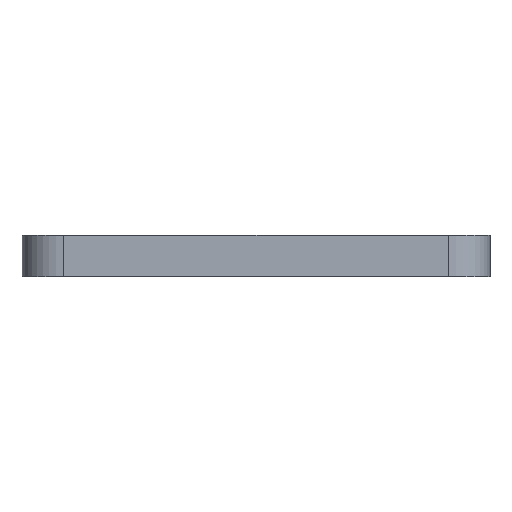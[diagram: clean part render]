
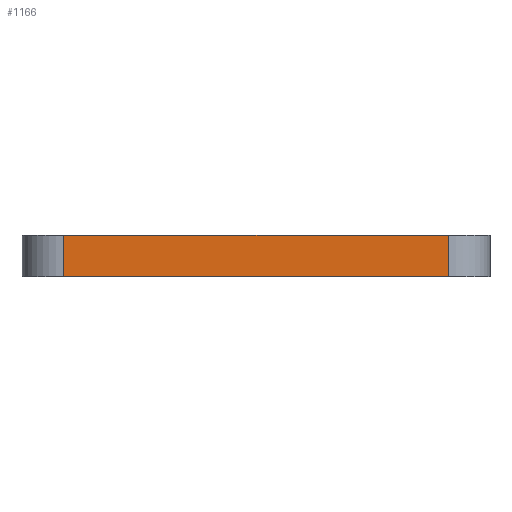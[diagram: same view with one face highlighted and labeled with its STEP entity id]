
A CAD part, front view. The second image highlights one B-rep face of the part: STEP entity #1166.
In plain terms, the highlighted planar face has unit normal (0, -1, 0).
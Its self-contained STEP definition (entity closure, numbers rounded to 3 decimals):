
#44 = PLANE('',#45);
#45 = AXIS2_PLACEMENT_3D('',#46,#47,#48);
#46 = CARTESIAN_POINT('',(-55.,-50.,8.));
#47 = DIRECTION('',(0.,0.,1.));
#48 = DIRECTION('',(1.,0.,0.));
#72 = CYLINDRICAL_SURFACE('',#73,8.);
#73 = AXIS2_PLACEMENT_3D('',#74,#75,#76);
#74 = CARTESIAN_POINT('',(-47.,-42.,0.));
#75 = DIRECTION('',(0.,0.,1.));
#76 = DIRECTION('',(-1.,-0.,0.));
#100 = PLANE('',#101);
#101 = AXIS2_PLACEMENT_3D('',#102,#103,#104);
#102 = CARTESIAN_POINT('',(-55.,-50.,0.));
#103 = DIRECTION('',(0.,0.,1.));
#104 = DIRECTION('',(1.,0.,0.));
#143 = VERTEX_POINT('',#144);
#144 = CARTESIAN_POINT('',(-47.,-50.,8.));
#166 = EDGE_CURVE('',#143,#167,#169,.T.);
#167 = VERTEX_POINT('',#168);
#168 = CARTESIAN_POINT('',(27.,-50.,8.));
#169 = SURFACE_CURVE('',#170,(#174,#181),.PCURVE_S1.);
#170 = LINE('',#171,#172);
#171 = CARTESIAN_POINT('',(-55.,-50.,8.));
#172 = VECTOR('',#173,1.);
#173 = DIRECTION('',(1.,0.,0.));
#174 = PCURVE('',#44,#175);
#175 = DEFINITIONAL_REPRESENTATION('',(#176),#180);
#176 = LINE('',#177,#178);
#177 = CARTESIAN_POINT('',(0.,0.));
#178 = VECTOR('',#179,1.);
#179 = DIRECTION('',(1.,0.));
#180 = ( GEOMETRIC_REPRESENTATION_CONTEXT(2) 
PARAMETRIC_REPRESENTATION_CONTEXT() REPRESENTATION_CONTEXT('2D SPACE',''
  ) );
#181 = PCURVE('',#182,#187);
#182 = PLANE('',#183);
#183 = AXIS2_PLACEMENT_3D('',#184,#185,#186);
#184 = CARTESIAN_POINT('',(-55.,-50.,0.));
#185 = DIRECTION('',(0.,1.,0.));
#186 = DIRECTION('',(0.,0.,1.));
#187 = DEFINITIONAL_REPRESENTATION('',(#188),#192);
#188 = LINE('',#189,#190);
#189 = CARTESIAN_POINT('',(8.,0.));
#190 = VECTOR('',#191,1.);
#191 = DIRECTION('',(0.,1.));
#192 = ( GEOMETRIC_REPRESENTATION_CONTEXT(2) 
PARAMETRIC_REPRESENTATION_CONTEXT() REPRESENTATION_CONTEXT('2D SPACE',''
  ) );
#215 = CYLINDRICAL_SURFACE('',#216,8.);
#216 = AXIS2_PLACEMENT_3D('',#217,#218,#219);
#217 = CARTESIAN_POINT('',(27.,-42.,0.));
#218 = DIRECTION('',(0.,0.,1.));
#219 = DIRECTION('',(1.,0.,-0.));
#652 = VERTEX_POINT('',#653);
#653 = CARTESIAN_POINT('',(-47.,-50.,0.));
#675 = EDGE_CURVE('',#652,#143,#676,.T.);
#676 = SURFACE_CURVE('',#677,(#681,#688),.PCURVE_S1.);
#677 = LINE('',#678,#679);
#678 = CARTESIAN_POINT('',(-47.,-50.,0.));
#679 = VECTOR('',#680,1.);
#680 = DIRECTION('',(0.,0.,1.));
#681 = PCURVE('',#72,#682);
#682 = DEFINITIONAL_REPRESENTATION('',(#683),#687);
#683 = LINE('',#684,#685);
#684 = CARTESIAN_POINT('',(1.571,0.));
#685 = VECTOR('',#686,1.);
#686 = DIRECTION('',(0.,1.));
#687 = ( GEOMETRIC_REPRESENTATION_CONTEXT(2) 
PARAMETRIC_REPRESENTATION_CONTEXT() REPRESENTATION_CONTEXT('2D SPACE',''
  ) );
#688 = PCURVE('',#182,#689);
#689 = DEFINITIONAL_REPRESENTATION('',(#690),#694);
#690 = LINE('',#691,#692);
#691 = CARTESIAN_POINT('',(0.,8.));
#692 = VECTOR('',#693,1.);
#693 = DIRECTION('',(1.,0.));
#694 = ( GEOMETRIC_REPRESENTATION_CONTEXT(2) 
PARAMETRIC_REPRESENTATION_CONTEXT() REPRESENTATION_CONTEXT('2D SPACE',''
  ) );
#757 = EDGE_CURVE('',#652,#758,#760,.T.);
#758 = VERTEX_POINT('',#759);
#759 = CARTESIAN_POINT('',(27.,-50.,0.));
#760 = SURFACE_CURVE('',#761,(#765,#772),.PCURVE_S1.);
#761 = LINE('',#762,#763);
#762 = CARTESIAN_POINT('',(-55.,-50.,0.));
#763 = VECTOR('',#764,1.);
#764 = DIRECTION('',(1.,0.,0.));
#765 = PCURVE('',#100,#766);
#766 = DEFINITIONAL_REPRESENTATION('',(#767),#771);
#767 = LINE('',#768,#769);
#768 = CARTESIAN_POINT('',(0.,0.));
#769 = VECTOR('',#770,1.);
#770 = DIRECTION('',(1.,0.));
#771 = ( GEOMETRIC_REPRESENTATION_CONTEXT(2) 
PARAMETRIC_REPRESENTATION_CONTEXT() REPRESENTATION_CONTEXT('2D SPACE',''
  ) );
#772 = PCURVE('',#182,#773);
#773 = DEFINITIONAL_REPRESENTATION('',(#774),#778);
#774 = LINE('',#775,#776);
#775 = CARTESIAN_POINT('',(0.,0.));
#776 = VECTOR('',#777,1.);
#777 = DIRECTION('',(0.,1.));
#778 = ( GEOMETRIC_REPRESENTATION_CONTEXT(2) 
PARAMETRIC_REPRESENTATION_CONTEXT() REPRESENTATION_CONTEXT('2D SPACE',''
  ) );
#1166 = ADVANCED_FACE('',(#1167),#182,.F.);
#1167 = FACE_BOUND('',#1168,.F.);
#1168 = EDGE_LOOP('',(#1169,#1170,#1171,#1172));
#1169 = ORIENTED_EDGE('',*,*,#757,.F.);
#1170 = ORIENTED_EDGE('',*,*,#675,.T.);
#1171 = ORIENTED_EDGE('',*,*,#166,.T.);
#1172 = ORIENTED_EDGE('',*,*,#1173,.F.);
#1173 = EDGE_CURVE('',#758,#167,#1174,.T.);
#1174 = SURFACE_CURVE('',#1175,(#1179,#1186),.PCURVE_S1.);
#1175 = LINE('',#1176,#1177);
#1176 = CARTESIAN_POINT('',(27.,-50.,0.));
#1177 = VECTOR('',#1178,1.);
#1178 = DIRECTION('',(0.,0.,1.));
#1179 = PCURVE('',#182,#1180);
#1180 = DEFINITIONAL_REPRESENTATION('',(#1181),#1185);
#1181 = LINE('',#1182,#1183);
#1182 = CARTESIAN_POINT('',(0.,82.));
#1183 = VECTOR('',#1184,1.);
#1184 = DIRECTION('',(1.,0.));
#1185 = ( GEOMETRIC_REPRESENTATION_CONTEXT(2) 
PARAMETRIC_REPRESENTATION_CONTEXT() REPRESENTATION_CONTEXT('2D SPACE',''
  ) );
#1186 = PCURVE('',#215,#1187);
#1187 = DEFINITIONAL_REPRESENTATION('',(#1188),#1192);
#1188 = LINE('',#1189,#1190);
#1189 = CARTESIAN_POINT('',(-1.571,0.));
#1190 = VECTOR('',#1191,1.);
#1191 = DIRECTION('',(-0.,1.));
#1192 = ( GEOMETRIC_REPRESENTATION_CONTEXT(2) 
PARAMETRIC_REPRESENTATION_CONTEXT() REPRESENTATION_CONTEXT('2D SPACE',''
  ) );
